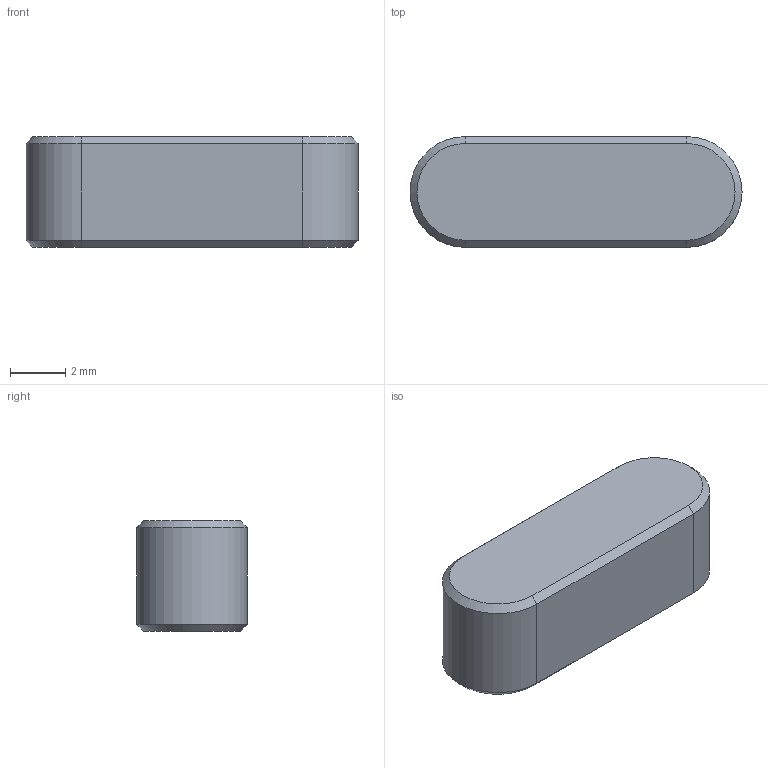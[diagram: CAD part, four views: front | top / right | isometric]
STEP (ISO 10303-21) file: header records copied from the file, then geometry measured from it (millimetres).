
FILE_DESCRIPTION(/* description */ ('키 및 해당 키홈'),/* implementation_level */ '2;1');
FILE_NAME(/* name */ '',/* time_stamp */ '2026-03-04T10:06:13+09:00',/* author */ ('jhkim'),/* organization */ (''),/* preprocessor_version */ 'ST-DEVELOPER v20.1',/* originating_system */ 'Autodesk Inventor 2026',/* authorisation */ '');
FILE_SCHEMA (('AUTOMOTIVE_DESIGN { 1 0 10303 214 3 1 1 }'));
Length unit declared in the file: millimetre
Products named in the file (1): 평행 키 4x4x12
Bounding box: 12 x 4 x 4 mm (x, y, z)
Volume: 176.5 mm3; surface area: 194.9 mm2
Topology: 1 solids, 1 shells, 14 faces, 28 edges, 16 vertices
Faces by surface type: plane 8, cone 4, cylinder 2
Entity records: 399 total; most frequent: DIRECTION 66, CARTESIAN_POINT 59, ORIENTED_EDGE 56, EDGE_CURVE 28, AXIS2_PLACEMENT_3D 23, LINE 20, VECTOR 20, VERTEX_POINT 16
